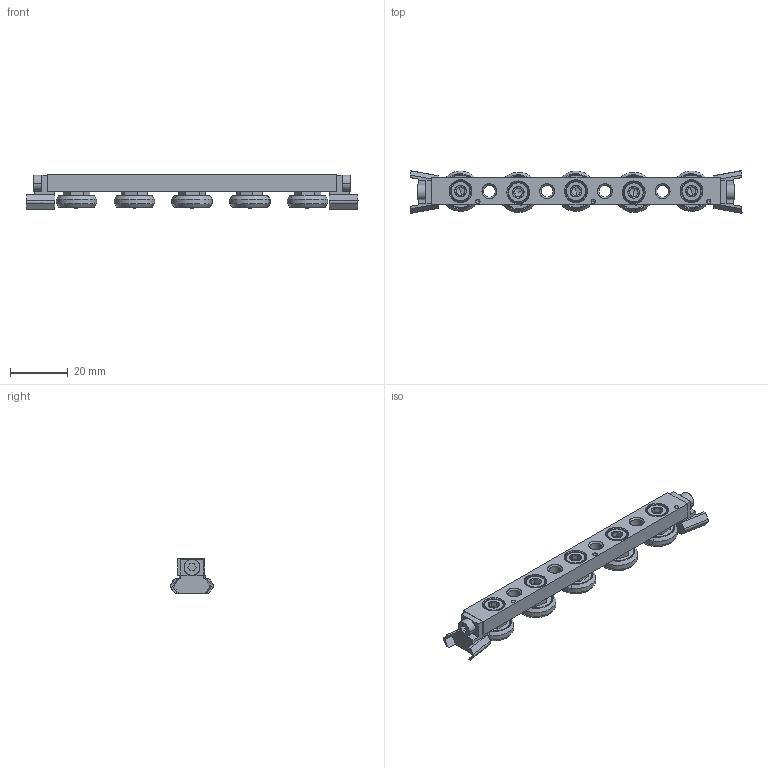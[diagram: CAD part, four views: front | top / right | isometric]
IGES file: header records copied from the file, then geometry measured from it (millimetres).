
Start section: SolidWorks IGES file using analytic representation for surfaces
Global section: file name: E:\J-00018 - L1918-L1963 LCompact Rail\L1918_v2\L1918.CSW18_v2\L1918.CSW18_IGES\L1918.CSW18-100-2ZT.igs; native system: SolidWorks 2017; preprocessor: SolidWorks 2017; author: liam_; date: 190629.230523; units: millimetre
Bounding box: 115 x 14.8 x 11.95 mm (x, y, z)
Surface area: 8979.4 mm2 (no closed solid volume)
Topology: 0 solids, 0 shells, 491 faces, 6380 edges, 6348 vertices
Faces by surface type: bspline 265, revolution 226
